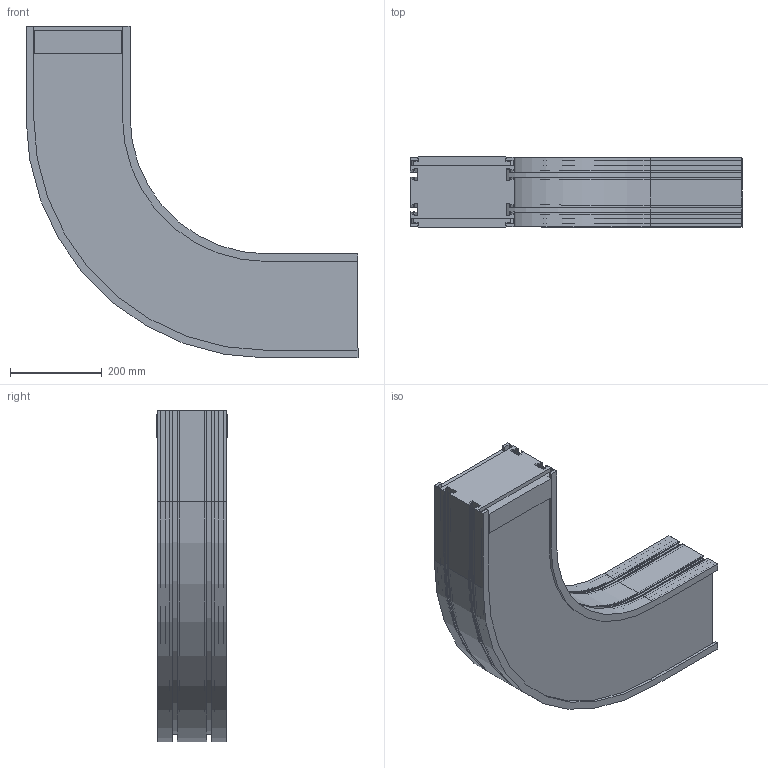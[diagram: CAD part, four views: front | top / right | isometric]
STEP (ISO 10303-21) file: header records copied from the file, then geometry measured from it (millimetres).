
FILE_DESCRIPTION (( 'STEP AP203' ), '1' );
FILE_NAME ('F2-750-C90.STEP', '2009-02-16T12:20:30', ( 'faber' ), ( '' ), 'SwSTEP 2.0', 'SolidWorks 2008', '' );
FILE_SCHEMA (( 'CONFIG_CONTROL_DESIGN' ));
Length unit declared in the file: millimetre
Products named in the file (3): Courbe_  750; Tapis_750; F2-750-C90
Assembly tree (3 placements, depth 2):
  F2-750-C90
    Courbe_  750
    Tapis_750  x2
Bounding box: 723.5 x 152.88 x 723.5 mm (x, y, z)
Volume: 26761770.2 mm3; surface area: 1440201.1 mm2
Topology: 3 solids, 3 shells, 190 faces, 552 edges, 368 vertices
Faces by surface type: plane 148, cylinder 42
Entity records: 6273 total; most frequent: CARTESIAN_POINT 1066, ORIENTED_EDGE 1056, DIRECTION 984, EDGE_CURVE 528, LINE 444, VECTOR 444, VERTEX_POINT 352, AXIS2_PLACEMENT_3D 270
